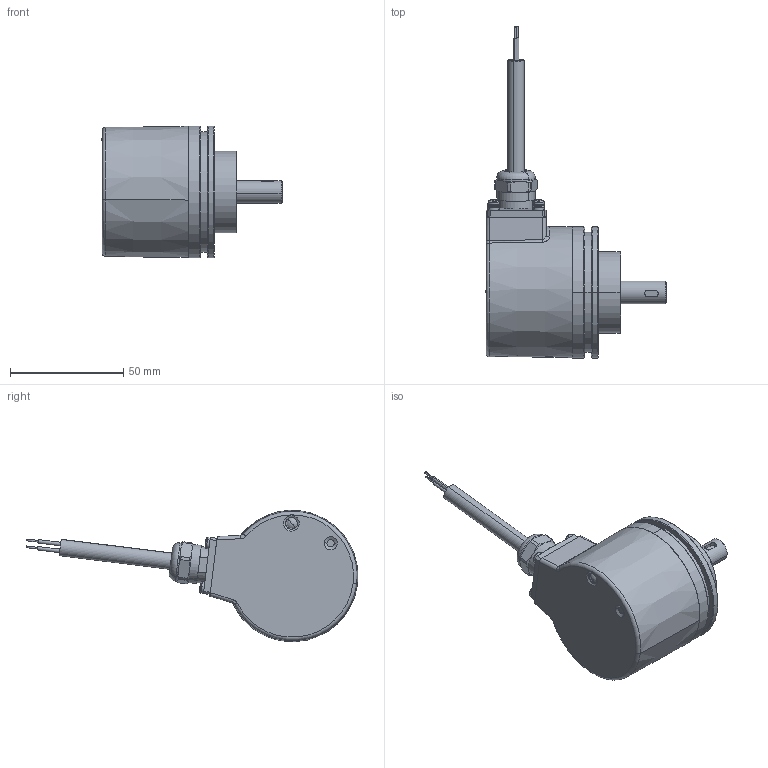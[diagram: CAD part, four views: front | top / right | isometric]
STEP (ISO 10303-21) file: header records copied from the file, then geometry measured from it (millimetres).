
FILE_DESCRIPTION (( 'STEP AP214' ), '1' );
FILE_NAME ('5863SIL.1AX2.XXXX.STEP', '2010-11-03T07:54:08', ( 'admin' ), ( 'Fritz Kübler GmbH' ), 'SwSTEP 2.0', 'SolidWorks 2009', '' );
FILE_SCHEMA (( 'AUTOMOTIVE_DESIGN' ));
Length unit declared in the file: millimetre
Products named in the file (1): 5863SIL.1AX2.XXXX
Bounding box: 79.6 x 146.55 x 58 mm (x, y, z)
Surface area: 24411 mm2 (no closed solid volume)
Topology: 0 solids, 13 shells, 250 faces, 632 edges, 405 vertices
Faces by surface type: plane 93, cylinder 73, cone 46, torus 22, sphere 10, bspline 6
Entity records: 11624 total; most frequent: CARTESIAN_POINT 2697, DIRECTION 1410, ORIENTED_EDGE 1162, EDGE_CURVE 632, AXIS2_PLACEMENT_3D 579, VERTEX_POINT 405, CIRCLE 334, EDGE_LOOP 286
